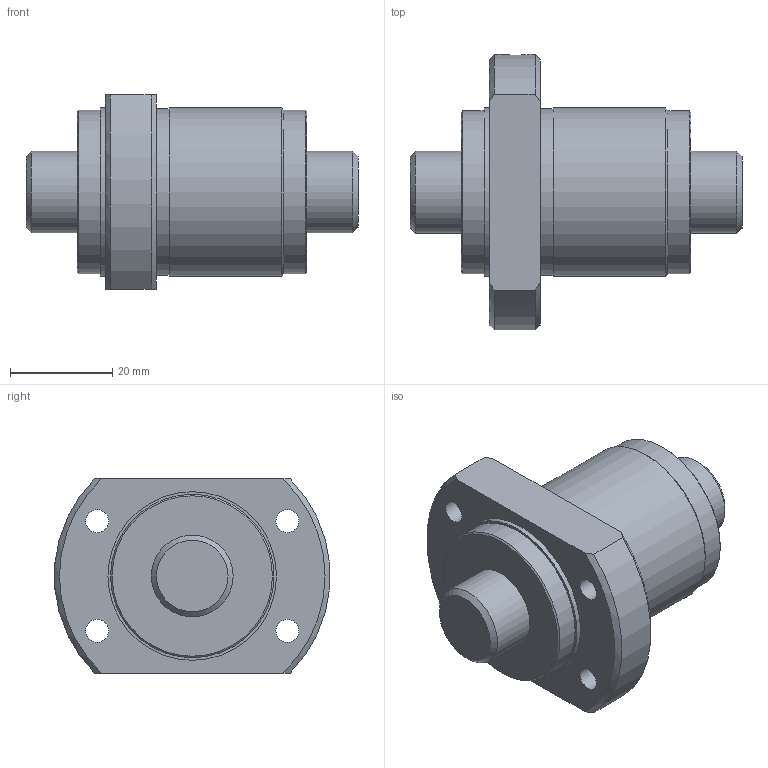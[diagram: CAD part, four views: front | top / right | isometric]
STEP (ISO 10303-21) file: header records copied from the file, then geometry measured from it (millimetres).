
FILE_DESCRIPTION(/* description */ ('STEP AP203'),/* implementation_level */ '2;1');
FILE_NAME(/* name */ 'SBK1616-3.6RRG0+65LC0(0000)',/* time_stamp */ '2024-05-28T11:19:25+02:00',/* author */ ('License CC BY-ND 4.0'),/* organization */ ('CADENAS'),/* preprocessor_version */ 'ST-DEVELOPER v19.3',/* originating_system */ 'PARTsolutions',/* authorisation */ ' ');
FILE_SCHEMA (('CONFIG_CONTROL_DESIGN'));
Length unit declared in the file: millimetre
Products named in the file (3): SBK1616-3.6RRG0+65LC0(0000); RR000SBK 1616-3.60Shaft; RR000SBK 1616-3.6Nut
Assembly tree (2 placements, depth 2):
  SBK1616-3.6RRG0+65LC0(0000)
    RR000SBK 1616-3.60Shaft
    RR000SBK 1616-3.6Nut
Bounding box: 65 x 53.9 x 38 mm (x, y, z)
Volume: 51078.7 mm3; surface area: 14914 mm2
Topology: 2 solids, 2 shells, 36 faces, 75 edges, 48 vertices
Faces by surface type: cylinder 14, plane 11, cone 11
Full cylindrical faces by diameter (mm): 4.5 x4, 4.917 x1, 16 x2, 32 x2, 32.6 x1, 33 x2
Entity records: 970 total; most frequent: CARTESIAN_POINT 174, DIRECTION 160, ORIENTED_EDGE 108, AXIS2_PLACEMENT_3D 76, FACE_BOUND 71, EDGE_LOOP 70, EDGE_CURVE 54, VERTEX_POINT 47
